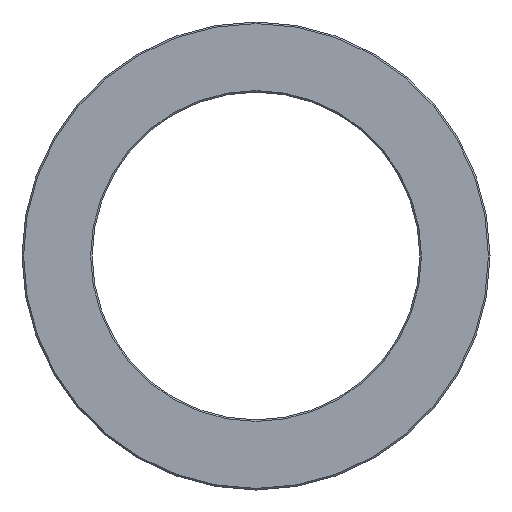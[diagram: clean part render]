
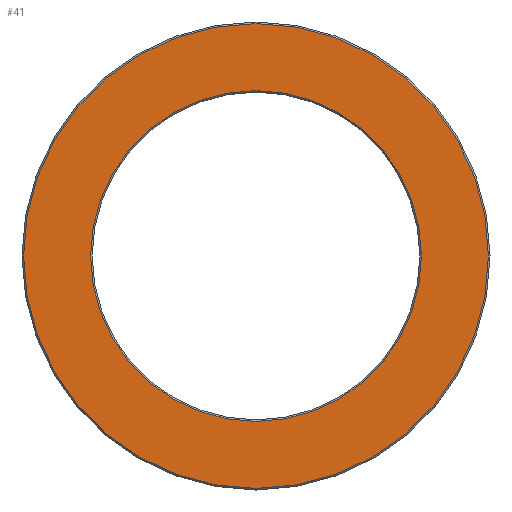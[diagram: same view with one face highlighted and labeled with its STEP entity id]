
A CAD part, left-side view. The second image highlights one B-rep face of the part: STEP entity #41.
In plain terms, the highlighted planar face has unit normal (-1, 0, 0).
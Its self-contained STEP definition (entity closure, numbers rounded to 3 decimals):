
#21 = EDGE_CURVE ( 'NONE', #319, #483, #101, .T. ) ;
#41 = ADVANCED_FACE ( 'NONE', ( #422, #420 ), #419, .T. ) ;
#49 = EDGE_CURVE ( 'NONE', #483, #319, #182, .T. ) ;
#53 = EDGE_CURVE ( 'NONE', #341, #346, #175, .T. ) ;
#68 = EDGE_CURVE ( 'NONE', #346, #341, #209, .T. ) ;
#98 = AXIS2_PLACEMENT_3D ( 'NONE', #503, #502, #501 ) ;
#101 = CIRCLE ( 'NONE', #98, 29.8 ) ;
#155 = AXIS2_PLACEMENT_3D ( 'NONE', #423, #425, #417 ) ;
#169 = AXIS2_PLACEMENT_3D ( 'NONE', #345, #344, #343 ) ;
#175 = CIRCLE ( 'NONE', #178, 21.2 ) ;
#178 = AXIS2_PLACEMENT_3D ( 'NONE', #328, #326, #324 ) ;
#182 = CIRCLE ( 'NONE', #169, 29.8 ) ;
#209 = CIRCLE ( 'NONE', #210, 21.2 ) ;
#210 = AXIS2_PLACEMENT_3D ( 'NONE', #269, #268, #263 ) ;
#263 = DIRECTION ( 'NONE',  ( 0., -1., 0. ) ) ;
#268 = DIRECTION ( 'NONE',  ( 1., 0., 0. ) ) ;
#269 = CARTESIAN_POINT ( 'NONE',  ( -156., 0., 0. ) ) ;
#319 = VERTEX_POINT ( 'NONE', #359 ) ;
#324 = DIRECTION ( 'NONE',  ( 0., -1., 0. ) ) ;
#326 = DIRECTION ( 'NONE',  ( 1., 0., 0. ) ) ;
#328 = CARTESIAN_POINT ( 'NONE',  ( -156., 0., 0. ) ) ;
#341 = VERTEX_POINT ( 'NONE', #387 ) ;
#343 = DIRECTION ( 'NONE',  ( 0., -1., 0. ) ) ;
#344 = DIRECTION ( 'NONE',  ( -1., 0., 0. ) ) ;
#345 = CARTESIAN_POINT ( 'NONE',  ( -156., 0., 0. ) ) ;
#346 = VERTEX_POINT ( 'NONE', #388 ) ;
#359 = CARTESIAN_POINT ( 'NONE',  ( -156., 29.8, 0. ) ) ;
#387 = CARTESIAN_POINT ( 'NONE',  ( -156., -21.2, 0. ) ) ;
#388 = CARTESIAN_POINT ( 'NONE',  ( -156., 21.2, 0. ) ) ;
#417 = DIRECTION ( 'NONE',  ( 0., -1., 0. ) ) ;
#419 = PLANE ( 'NONE',  #155 ) ;
#420 = FACE_OUTER_BOUND ( 'NONE', #605, .T. ) ;
#422 = FACE_BOUND ( 'NONE', #519, .T. ) ;
#423 = CARTESIAN_POINT ( 'NONE',  ( -156., 21., 0. ) ) ;
#425 = DIRECTION ( 'NONE',  ( -1., 0., 0. ) ) ;
#431 = CARTESIAN_POINT ( 'NONE',  ( -156., -29.8, 0. ) ) ;
#483 = VERTEX_POINT ( 'NONE', #431 ) ;
#501 = DIRECTION ( 'NONE',  ( 0., -1., 0. ) ) ;
#502 = DIRECTION ( 'NONE',  ( -1., 0., 0. ) ) ;
#503 = CARTESIAN_POINT ( 'NONE',  ( -156., 0., 0. ) ) ;
#519 = EDGE_LOOP ( 'NONE', ( #684, #683 ) ) ;
#605 = EDGE_LOOP ( 'NONE', ( #679, #678 ) ) ;
#678 = ORIENTED_EDGE ( 'NONE', *, *, #49, .T. ) ;
#679 = ORIENTED_EDGE ( 'NONE', *, *, #21, .T. ) ;
#683 = ORIENTED_EDGE ( 'NONE', *, *, #68, .T. ) ;
#684 = ORIENTED_EDGE ( 'NONE', *, *, #53, .T. ) ;
